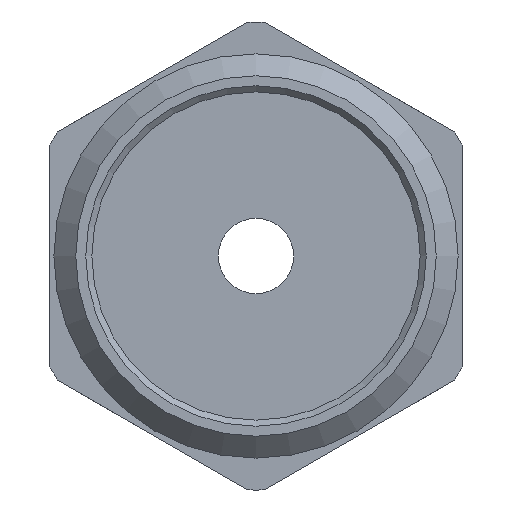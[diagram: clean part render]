
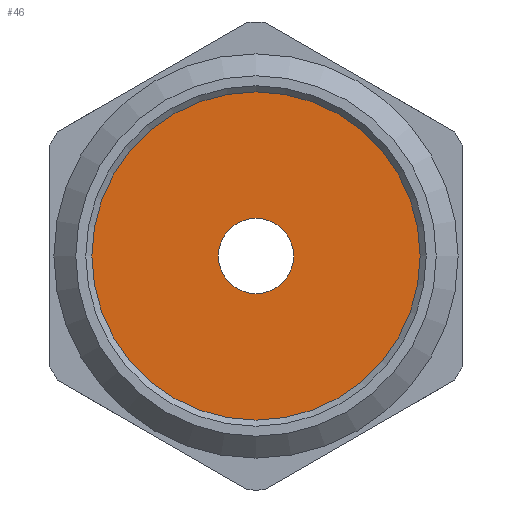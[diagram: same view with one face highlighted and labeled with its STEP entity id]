
A CAD part, front view. The second image highlights one B-rep face of the part: STEP entity #46.
In plain terms, the highlighted planar face has unit normal (0, -1, 0).
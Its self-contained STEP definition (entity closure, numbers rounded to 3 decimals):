
#46=ADVANCED_FACE('',(#96,#98),#100,.T.);
#96=FACE_BOUND('',#97,.T.);
#97=EDGE_LOOP('',(#356));
#98=FACE_BOUND('',#99,.T.);
#99=EDGE_LOOP('',(#357));
#100=PLANE('',#101);
#101=AXIS2_PLACEMENT_3D('',#102,#103,#104);
#102=CARTESIAN_POINT('',(0.,-2.5,0.));
#103=DIRECTION('',(0.,-1.,0.));
#104=DIRECTION('',(1.,0.,0.));
#356=ORIENTED_EDGE('',*,*,#498,.T.);
#357=ORIENTED_EDGE('',*,*,#497,.F.);
#497=EDGE_CURVE('',#571,#571,#572,.F.);
#498=EDGE_CURVE('',#573,#573,#574,.T.);
#571=VERTEX_POINT('',#704);
#572=CIRCLE('',#705,3.1);
#573=VERTEX_POINT('',#709);
#574=CIRCLE('',#710,13.5);
#704=CARTESIAN_POINT('',(-3.1,-2.5,0.));
#705=AXIS2_PLACEMENT_3D('',#706,#707,#708);
#706=CARTESIAN_POINT('',(0.,-2.5,0.));
#707=DIRECTION('',(0.,1.,0.));
#708=DIRECTION('',(-1.,0.,0.));
#709=CARTESIAN_POINT('',(13.5,-2.5,0.));
#710=AXIS2_PLACEMENT_3D('',#711,#712,#713);
#711=CARTESIAN_POINT('',(0.,-2.5,0.));
#712=DIRECTION('',(0.,-1.,0.));
#713=DIRECTION('',(1.,0.,0.));
